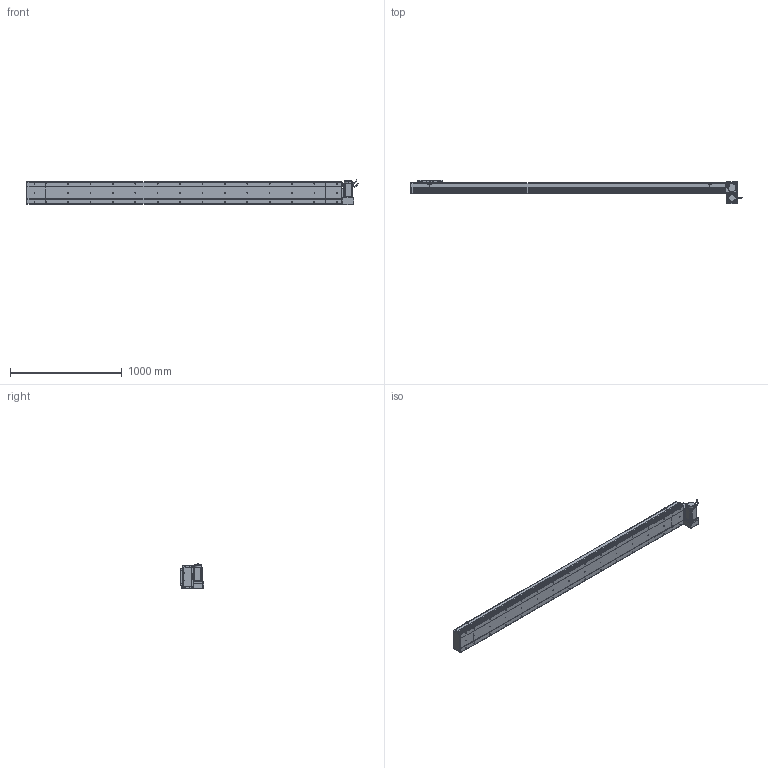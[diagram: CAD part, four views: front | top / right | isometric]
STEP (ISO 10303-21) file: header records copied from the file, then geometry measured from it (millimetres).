
FILE_DESCRIPTION (( 'STEP AP214' ), '1' );
FILE_NAME ('D20 CBH RU S2500.STEP', '2010-06-30T10:14:22', ( 'Conseil Régional Haute-Normandie' ), ( 'Conseil Régional Haute-Normandie' ), 'SwSTEP 2.0', 'SolidWorks 2010', '' );
FILE_SCHEMA (( 'AUTOMOTIVE_DESIGN' ));
Length unit declared in the file: millimetre
Products named in the file (31): D20 CBH RU S2500; Head RU_Default; Corp S2500_Default; Support moteur RU_Default; Couvercle S2500_Default; Corp D20 S2500_Default; Glissiere_Default; Chariot D20_Default; Couvercle RU_Default; Corp Tail D20 RU_Default; Support Chariot D20_Default; Plaque De Serrage D20 RU_Default; ecrou_Default; Rondelle Cache D20 RU_Default; Cache Support Moteur RU_Default; vis M5 L47_Default; Moteur motionking 90BLDC125A-640; vis M5 L30_Default; Conecteur_Default; Conecteur2_Default; codeur 90BLDC125-640; corps 90BLDC125A-640; avant 90BLDC125A-640; vis M5 L15_Default; Plaque De Serrage D20_Default; Plaque de Bout Tail D20_Default; Couvercle_Default; Corp Tail D20+100_Default; Tail D20+100_Default; Plaque de Bout Head D20 RU_Default
Assembly tree (66 placements, depth 4):
  D20 CBH RU S2500
    Chariot D20_Default
      Glissiere_Default
      Support Chariot D20_Default
      vis M5 L15_Default  x8
      Chariot D20_Default
    Tail D20+100_Default
      Corp Tail D20+100_Default
      Plaque de Bout Tail D20_Default
      Couvercle_Default
      vis M5 L15_Default  x6
      Plaque De Serrage D20_Default
    Head RU_Default
      vis M5 L15_Default  x12
      vis M5 L30_Default  x4
      Rondelle Cache D20 RU_Default  x3
      ecrou_Default  x4
      Moteur motionking 90BLDC125A-640
        Conecteur_Default
        corps 90BLDC125A-640
        codeur 90BLDC125-640
        Conecteur2_Default
        avant 90BLDC125A-640
      Cache Support Moteur RU_Default
      vis M5 L47_Default  x4
      Couvercle RU_Default
      Corp Tail D20 RU_Default
      Support moteur RU_Default
      Plaque de Bout Head D20 RU_Default
      Plaque De Serrage D20 RU_Default
    Corp D20 S2500_Default
      Corp S2500_Default
      Couvercle S2500_Default
Bounding box: 2964.45 x 209 x 229.7 mm (x, y, z)
Volume: 20081831.3 mm3; surface area: 3888338.9 mm2
Topology: 103 solids, 103 shells, 3799 faces, 9470 edges, 6154 vertices
Faces by surface type: plane 2108, bspline 806, cylinder 722, torus 91, cone 68, sphere 4
Entity records: 160294 total; most frequent: CARTESIAN_POINT 82461, ORIENTED_EDGE 15408, DIRECTION 11778, EDGE_CURVE 7704, VERTEX_POINT 5098, VECTOR 4972, LINE 4972, AXIS2_PLACEMENT_3D 3403
